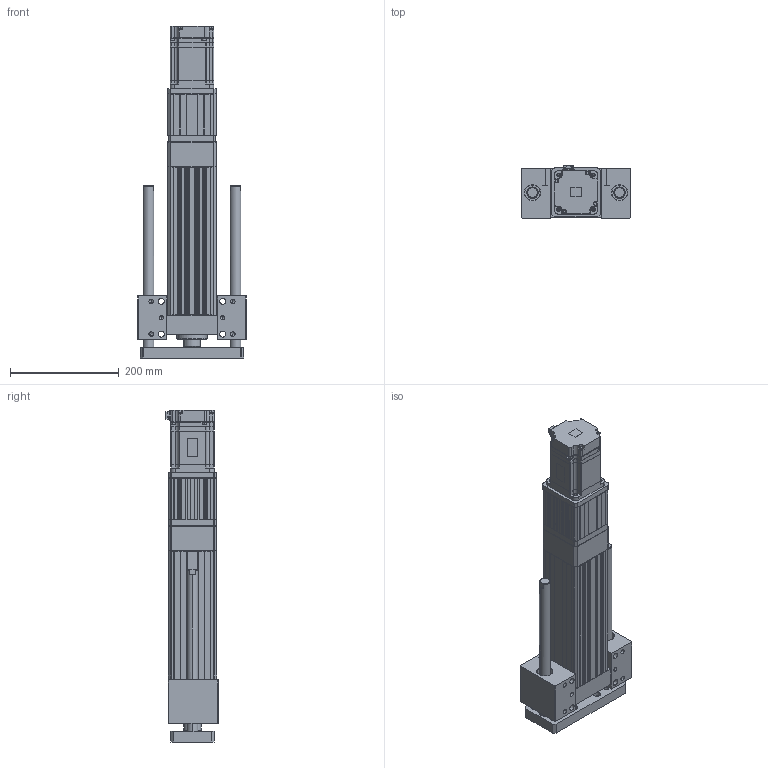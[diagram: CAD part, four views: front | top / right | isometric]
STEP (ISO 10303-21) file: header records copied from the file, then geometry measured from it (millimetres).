
FILE_DESCRIPTION (( 'STEP AP203' ), '1' );
FILE_NAME ('ANS090R-HS150-05(10)(20)-W75.STEP', '2019-03-02T09:16:43', ( 'user' ), ( '' ), 'SwSTEP 2.0', 'SolidWorks 2013', '' );
FILE_SCHEMA (( 'CONFIG_CONTROL_DESIGN' ));
Length unit declared in the file: millimetre
Products named in the file (4): ANS090R HS150 VER2; SGMJV_08A_A21; ANS090 ROD ST150-H; ANS090R-HS150-05(10)(20)-W75
Assembly tree (3 placements, depth 2):
  ANS090R-HS150-05(10)(20)-W75
    ANS090R HS150 VER2
    SGMJV_08A_A21
    ANS090 ROD ST150-H
Bounding box: 200 x 95.8 x 610.1 mm (x, y, z)
Volume: 3839183.6 mm3; surface area: 596656.2 mm2
Topology: 3 solids, 3 shells, 1600 faces, 4288 edges, 2780 vertices
Faces by surface type: plane 982, cylinder 486, cone 128, bspline 4
Entity records: 50298 total; most frequent: CARTESIAN_POINT 9440, ORIENTED_EDGE 8528, DIRECTION 8312, EDGE_CURVE 4264, VECTOR 3080, LINE 3080, VERTEX_POINT 2780, AXIS2_PLACEMENT_3D 2616
